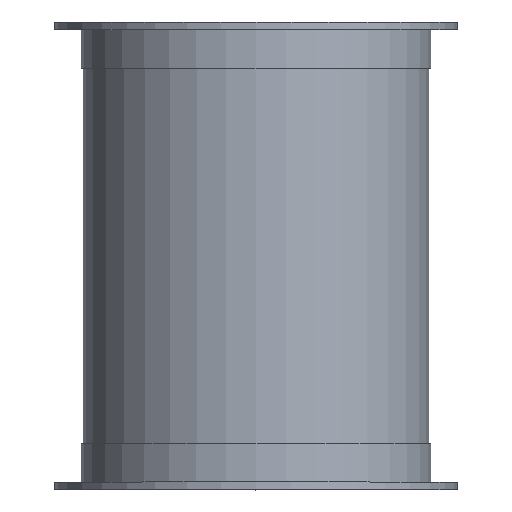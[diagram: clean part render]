
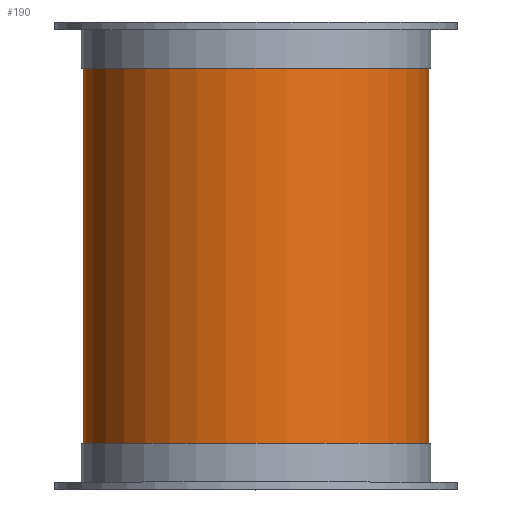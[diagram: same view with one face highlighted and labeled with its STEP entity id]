
A CAD part, top view. The second image highlights one B-rep face of the part: STEP entity #190.
In plain terms, the highlighted cylindrical face has radius 94 mm (diameter 188 mm), a partial arc.
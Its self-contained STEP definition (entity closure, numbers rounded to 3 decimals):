
#190=ADVANCED_FACE('',(#414),#415,.T.);
#414=FACE_OUTER_BOUND('',#629,.T.);
#415=CYLINDRICAL_SURFACE('',#630,94.0);
#629=EDGE_LOOP('',(#1137,#1138,#1139,#1140));
#630=AXIS2_PLACEMENT_3D('',#1141,#1142,#1143);
#1137=ORIENTED_EDGE('',*,*,#1145,.T.);
#1138=ORIENTED_EDGE('',*,*,#1302,.T.);
#1139=ORIENTED_EDGE('',*,*,#1147,.T.);
#1140=ORIENTED_EDGE('',*,*,#1341,.T.);
#1141=CARTESIAN_POINT('',(0.0,127.0,0.0));
#1142=DIRECTION('',(-0.0,1.0,0.0));
#1143=DIRECTION('',(1.0,0.0,0.0));
#1145=EDGE_CURVE('',#1345,#1346,#1347,.T.);
#1147=EDGE_CURVE('',#1350,#1348,#1351,.T.);
#1302=EDGE_CURVE('',#1346,#1350,#1598,.T.);
#1341=EDGE_CURVE('',#1348,#1345,#1637,.T.);
#1345=VERTEX_POINT('',#1641);
#1346=VERTEX_POINT('',#1642);
#1347=LINE('',#1643,#1644);
#1348=VERTEX_POINT('',#1645);
#1350=VERTEX_POINT('',#1647);
#1351=LINE('',#1648,#1649);
#1598=CIRCLE('',#1942,94.0);
#1637=CIRCLE('',#1981,94.0);
#1641=CARTESIAN_POINT('',(94.0,25.0,0.));
#1642=CARTESIAN_POINT('',(94.0,229.0,0.));
#1643=CARTESIAN_POINT('',(94.0,127.0,0.));
#1644=VECTOR('',#1984,1.0);
#1645=CARTESIAN_POINT('',(-94.0,25.0,0.));
#1647=CARTESIAN_POINT('',(-94.0,229.0,0.));
#1648=CARTESIAN_POINT('',(-94.0,127.0,0.));
#1649=VECTOR('',#1988,1.0);
#1942=AXIS2_PLACEMENT_3D('',#2245,#2246,#2247);
#1981=AXIS2_PLACEMENT_3D('',#2317,#2318,#2319);
#1984=DIRECTION('',(0.0,1.0,0.0));
#1988=DIRECTION('',(-0.0,-1.0,-0.0));
#2245=CARTESIAN_POINT('',(0.0,229.0,0.0));
#2246=DIRECTION('',(0.0,-1.0,0.));
#2247=DIRECTION('',(1.0,0.0,0.0));
#2317=CARTESIAN_POINT('',(0.0,25.0,0.0));
#2318=DIRECTION('',(-0.0,1.0,0.0));
#2319=DIRECTION('',(1.0,0.0,0.0));
